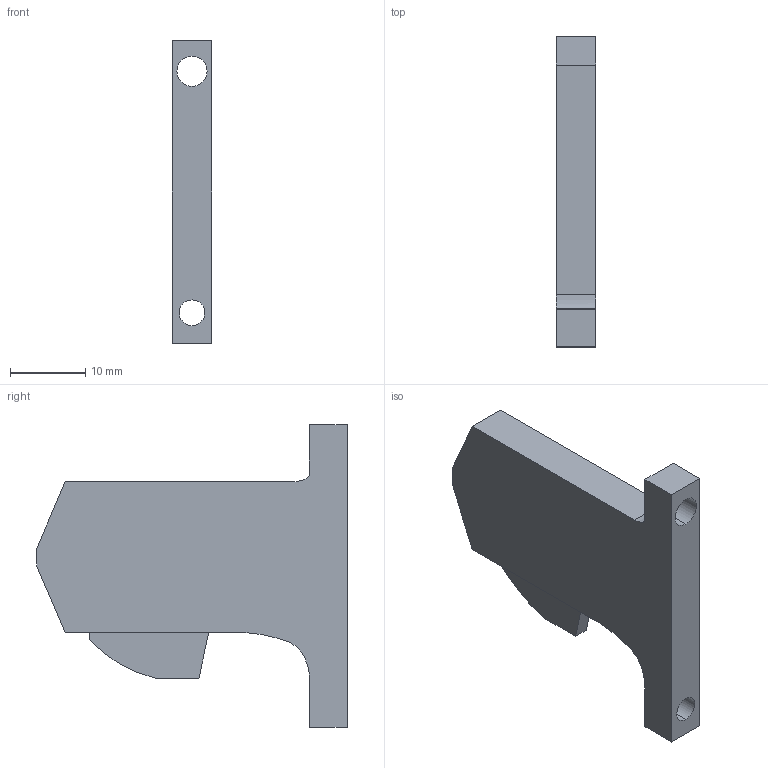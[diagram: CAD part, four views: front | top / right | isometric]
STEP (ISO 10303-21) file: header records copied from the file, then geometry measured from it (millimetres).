
FILE_DESCRIPTION (( 'STEP AP203' ), '1' );
FILE_NAME ('Vionaro V8 Frontbefestigung_Anschraubvariante_Links.STEP', '2023-01-18T10:10:29', ( '' ), ( '' ), 'SwSTEP 2.0', 'SolidWorks 2021', '' );
FILE_SCHEMA (( 'CONFIG_CONTROL_DESIGN' ));
Length unit declared in the file: millimetre
Products named in the file (1): Vionaro V8 Frontbefestigung_Anschraubvariante_Links
Bounding box: 5.3 x 41.13 x 40.1 mm (x, y, z)
Volume: 4811.4 mm3; surface area: 2848.1 mm2
Topology: 1 solids, 1 shells, 25 faces, 66 edges, 44 vertices
Faces by surface type: plane 17, cylinder 6, bspline 2
Entity records: 893 total; most frequent: CARTESIAN_POINT 186, ORIENTED_EDGE 132, DIRECTION 122, EDGE_CURVE 66, LINE 50, VECTOR 50, VERTEX_POINT 44, AXIS2_PLACEMENT_3D 36
